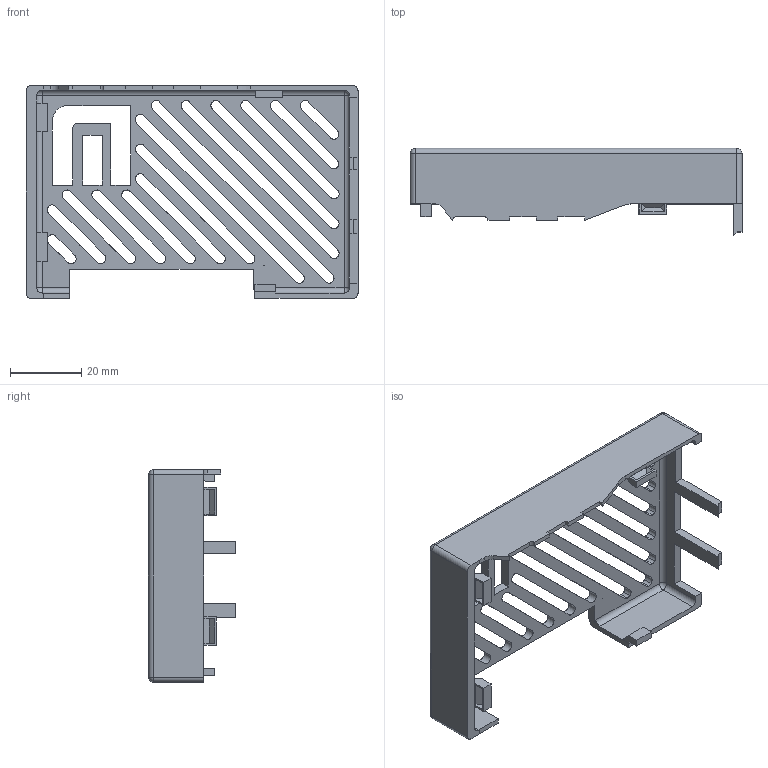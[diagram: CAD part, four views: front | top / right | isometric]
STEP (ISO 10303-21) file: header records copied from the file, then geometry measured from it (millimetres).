
FILE_DESCRIPTION(/* description */ (''),/* implementation_level */ '2;1');
FILE_NAME(/* name */ 'Pins-Top.step',/* time_stamp */ '2024-01-19T15:05:32-05:00',/* author */ (''),/* organization */ (''),/* preprocessor_version */ 'ST-DEVELOPER v20',/* originating_system */ 'Autodesk Translation Framework v12.14.0.127',/* authorisation */ '');
FILE_SCHEMA (('AUTOMOTIVE_DESIGN { 1 0 10303 214 3 1 1 }'));
Length unit declared in the file: millimetre
Products named in the file (2): PiWu; V2
Assembly tree (1 placements, depth 2):
  PiWu
    V2
Bounding box: 93.1 x 24.4 x 59.65 mm (x, y, z)
Volume: 14332.2 mm3; surface area: 17000.6 mm2
Topology: 1 solids, 1 shells, 226 faces, 639 edges, 417 vertices
Faces by surface type: plane 136, bspline 53, cylinder 29, sphere 8
Entity records: 7529 total; most frequent: CARTESIAN_POINT 1993, ORIENTED_EDGE 1278, DIRECTION 944, EDGE_CURVE 639, LINE 474, VECTOR 474, VERTEX_POINT 417, EDGE_LOOP 262
